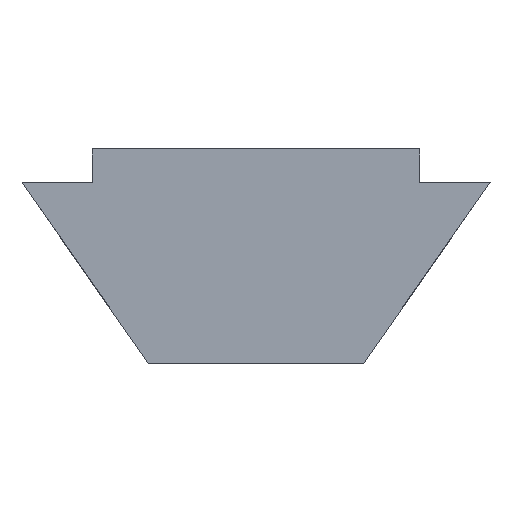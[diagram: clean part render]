
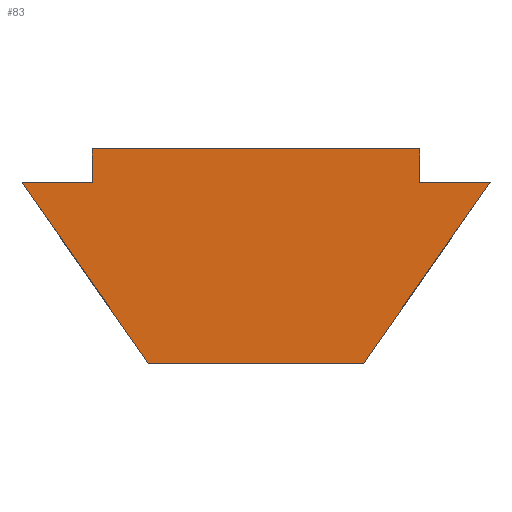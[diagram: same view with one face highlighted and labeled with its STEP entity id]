
A CAD part, left-side view. The second image highlights one B-rep face of the part: STEP entity #83.
In plain terms, the highlighted planar face has unit normal (-1, 0, 0) as drawn and (1, 0, 0) by its records, which use the part's own axes.
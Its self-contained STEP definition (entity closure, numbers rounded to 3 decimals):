
#83=ADVANCED_FACE('',(#122),#1466,.T.);
#122=FACE_OUTER_BOUND('',#163,.T.);
#163=EDGE_LOOP('',(#300,#301,#302,#303,#304,#305,#306,#307));
#300=ORIENTED_EDGE('',*,*,#999,.F.);
#301=ORIENTED_EDGE('',*,*,#1006,.F.);
#302=ORIENTED_EDGE('',*,*,#1011,.F.);
#303=ORIENTED_EDGE('',*,*,#1014,.F.);
#304=ORIENTED_EDGE('',*,*,#1017,.F.);
#305=ORIENTED_EDGE('',*,*,#1020,.F.);
#306=ORIENTED_EDGE('',*,*,#1025,.F.);
#307=ORIENTED_EDGE('',*,*,#1027,.F.);
#495=PCURVE('',#1457,#711);
#502=PCURVE('',#1458,#718);
#508=PCURVE('',#1459,#724);
#512=PCURVE('',#1460,#728);
#516=PCURVE('',#1461,#732);
#520=PCURVE('',#1462,#736);
#526=PCURVE('',#1463,#742);
#530=PCURVE('',#1464,#746);
#540=PCURVE('',#1466,#756);
#541=PCURVE('',#1466,#757);
#542=PCURVE('',#1466,#758);
#543=PCURVE('',#1466,#759);
#544=PCURVE('',#1466,#760);
#545=PCURVE('',#1466,#761);
#546=PCURVE('',#1466,#762);
#547=PCURVE('',#1466,#763);
#711=DEFINITIONAL_REPRESENTATION('',(#1174),#2965);
#718=DEFINITIONAL_REPRESENTATION('',(#1186),#2965);
#724=DEFINITIONAL_REPRESENTATION('',(#1197),#2965);
#728=DEFINITIONAL_REPRESENTATION('',(#1204),#2965);
#732=DEFINITIONAL_REPRESENTATION('',(#1211),#2965);
#736=DEFINITIONAL_REPRESENTATION('',(#1218),#2965);
#742=DEFINITIONAL_REPRESENTATION('',(#1227),#2965);
#746=DEFINITIONAL_REPRESENTATION('',(#1233),#2965);
#756=DEFINITIONAL_REPRESENTATION('',(#1244),#2965);
#757=DEFINITIONAL_REPRESENTATION('',(#1245),#2965);
#758=DEFINITIONAL_REPRESENTATION('',(#1246),#2965);
#759=DEFINITIONAL_REPRESENTATION('',(#1247),#2965);
#760=DEFINITIONAL_REPRESENTATION('',(#1248),#2965);
#761=DEFINITIONAL_REPRESENTATION('',(#1249),#2965);
#762=DEFINITIONAL_REPRESENTATION('',(#1250),#2965);
#763=DEFINITIONAL_REPRESENTATION('',(#1251),#2965);
#891=SURFACE_CURVE('',#1173,(#495,#540),.PCURVE_S1.);
#898=SURFACE_CURVE('',#1185,(#502,#541),.PCURVE_S1.);
#903=SURFACE_CURVE('',#1196,(#508,#542),.PCURVE_S1.);
#906=SURFACE_CURVE('',#1203,(#512,#543),.PCURVE_S1.);
#909=SURFACE_CURVE('',#1210,(#516,#544),.PCURVE_S1.);
#912=SURFACE_CURVE('',#1217,(#520,#545),.PCURVE_S1.);
#917=SURFACE_CURVE('',#1226,(#526,#546),.PCURVE_S1.);
#919=SURFACE_CURVE('',#1232,(#530,#547),.PCURVE_S1.);
#999=EDGE_CURVE('',#1395,#1396,#891,.T.);
#1006=EDGE_CURVE('',#1398,#1395,#898,.T.);
#1011=EDGE_CURVE('',#1400,#1398,#903,.T.);
#1014=EDGE_CURVE('',#1402,#1400,#906,.T.);
#1017=EDGE_CURVE('',#1404,#1402,#909,.T.);
#1020=EDGE_CURVE('',#1406,#1404,#912,.T.);
#1025=EDGE_CURVE('',#1408,#1406,#917,.T.);
#1027=EDGE_CURVE('',#1396,#1408,#919,.T.);
#1173=B_SPLINE_CURVE_WITH_KNOTS('',1,(#2161,#2162),.UNSPECIFIED.,.F.,.F.,
(2,2),(0.,3.906),.UNSPECIFIED.);
#1174=B_SPLINE_CURVE_WITH_KNOTS('',1,(#2163,#2164),.UNSPECIFIED.,.F.,.F.,
(2,2),(0.,3.906),.UNSPECIFIED.);
#1185=B_SPLINE_CURVE_WITH_KNOTS('',1,(#2201,#2202),.UNSPECIFIED.,.F.,.F.,
(2,2),(-3.819,0.),.UNSPECIFIED.);
#1186=B_SPLINE_CURVE_WITH_KNOTS('',1,(#2203,#2204),.UNSPECIFIED.,.F.,.F.,
(2,2),(-3.819,0.),.UNSPECIFIED.);
#1196=B_SPLINE_CURVE_WITH_KNOTS('',1,(#2253,#2254),.UNSPECIFIED.,.F.,.F.,
(2,2),(-7.725,-3.819),.UNSPECIFIED.);
#1197=B_SPLINE_CURVE_WITH_KNOTS('',1,(#2255,#2256),.UNSPECIFIED.,.F.,.F.,
(2,2),(-7.725,-3.819),.UNSPECIFIED.);
#1203=B_SPLINE_CURVE_WITH_KNOTS('',1,(#2267,#2268),.UNSPECIFIED.,.F.,.F.,
(2,2),(-8.975,-7.725),.UNSPECIFIED.);
#1204=B_SPLINE_CURVE_WITH_KNOTS('',1,(#2269,#2270),.UNSPECIFIED.,.F.,.F.,
(2,2),(-8.975,-7.725),.UNSPECIFIED.);
#1210=B_SPLINE_CURVE_WITH_KNOTS('',1,(#2281,#2282),.UNSPECIFIED.,.F.,.F.,
(2,2),(-9.575,-8.975),.UNSPECIFIED.);
#1211=B_SPLINE_CURVE_WITH_KNOTS('',1,(#2283,#2284),.UNSPECIFIED.,.F.,.F.,
(2,2),(-9.575,-8.975),.UNSPECIFIED.);
#1217=B_SPLINE_CURVE_WITH_KNOTS('',1,(#2295,#2296),.UNSPECIFIED.,.F.,.F.,
(2,2),(-15.375,-9.575),.UNSPECIFIED.);
#1218=B_SPLINE_CURVE_WITH_KNOTS('',1,(#2297,#2298),.UNSPECIFIED.,.F.,.F.,
(2,2),(-15.375,-9.575),.UNSPECIFIED.);
#1226=B_SPLINE_CURVE_WITH_KNOTS('',1,(#2369,#2370),.UNSPECIFIED.,.F.,.F.,
(2,2),(-15.975,-15.375),.UNSPECIFIED.);
#1227=B_SPLINE_CURVE_WITH_KNOTS('',1,(#2371,#2372),.UNSPECIFIED.,.F.,.F.,
(2,2),(-15.975,-15.375),.UNSPECIFIED.);
#1232=B_SPLINE_CURVE_WITH_KNOTS('',1,(#2381,#2382),.UNSPECIFIED.,.F.,.F.,
(2,2),(-17.225,-15.975),.UNSPECIFIED.);
#1233=B_SPLINE_CURVE_WITH_KNOTS('',1,(#2383,#2384),.UNSPECIFIED.,.F.,.F.,
(2,2),(-17.225,-15.975),.UNSPECIFIED.);
#1244=B_SPLINE_CURVE_WITH_KNOTS('',1,(#2405,#2406),.UNSPECIFIED.,.F.,.F.,
(2,2),(0.,3.906),.UNSPECIFIED.);
#1245=B_SPLINE_CURVE_WITH_KNOTS('',1,(#2407,#2408),.UNSPECIFIED.,.F.,.F.,
(2,2),(-3.819,0.),.UNSPECIFIED.);
#1246=B_SPLINE_CURVE_WITH_KNOTS('',1,(#2409,#2410),.UNSPECIFIED.,.F.,.F.,
(2,2),(-7.725,-3.819),.UNSPECIFIED.);
#1247=B_SPLINE_CURVE_WITH_KNOTS('',1,(#2411,#2412),.UNSPECIFIED.,.F.,.F.,
(2,2),(-8.975,-7.725),.UNSPECIFIED.);
#1248=B_SPLINE_CURVE_WITH_KNOTS('',1,(#2413,#2414),.UNSPECIFIED.,.F.,.F.,
(2,2),(-9.575,-8.975),.UNSPECIFIED.);
#1249=B_SPLINE_CURVE_WITH_KNOTS('',1,(#2415,#2416),.UNSPECIFIED.,.F.,.F.,
(2,2),(-15.375,-9.575),.UNSPECIFIED.);
#1250=B_SPLINE_CURVE_WITH_KNOTS('',1,(#2417,#2418),.UNSPECIFIED.,.F.,.F.,
(2,2),(-15.975,-15.375),.UNSPECIFIED.);
#1251=B_SPLINE_CURVE_WITH_KNOTS('',1,(#2419,#2420),.UNSPECIFIED.,.F.,.F.,
(2,2),(-17.225,-15.975),.UNSPECIFIED.);
#1395=VERTEX_POINT('',#2101);
#1396=VERTEX_POINT('',#2102);
#1398=VERTEX_POINT('',#2104);
#1400=VERTEX_POINT('',#2106);
#1402=VERTEX_POINT('',#2108);
#1404=VERTEX_POINT('',#2110);
#1406=VERTEX_POINT('',#2112);
#1408=VERTEX_POINT('',#2114);
#1457=PLANE('',#1532);
#1458=PLANE('',#1533);
#1459=PLANE('',#1534);
#1460=PLANE('',#1535);
#1461=PLANE('',#1536);
#1462=PLANE('',#1537);
#1463=PLANE('',#1538);
#1464=PLANE('',#1539);
#1466=PLANE('',#1541);
#1532=AXIS2_PLACEMENT_3D('',#2053,#1572,$);
#1533=AXIS2_PLACEMENT_3D('',#2054,#1573,$);
#1534=AXIS2_PLACEMENT_3D('',#2055,#1574,$);
#1535=AXIS2_PLACEMENT_3D('',#2056,#1575,$);
#1536=AXIS2_PLACEMENT_3D('',#2057,#1576,$);
#1537=AXIS2_PLACEMENT_3D('',#2058,#1577,$);
#1538=AXIS2_PLACEMENT_3D('',#2059,#1578,$);
#1539=AXIS2_PLACEMENT_3D('',#2060,#1579,$);
#1541=AXIS2_PLACEMENT_3D('',#2098,#1581,$);
#1572=DIRECTION('',(0.,0.819,0.574));
#1573=DIRECTION('',(0.,0.,1.));
#1574=DIRECTION('',(0.,-0.819,0.574));
#1575=DIRECTION('',(0.,0.,-1.));
#1576=DIRECTION('',(0.,-1.,0.));
#1577=DIRECTION('',(0.,0.,-1.));
#1578=DIRECTION('',(0.,1.,0.));
#1579=DIRECTION('',(0.,0.,-1.));
#1581=DIRECTION('',(1.,0.,0.));
#2053=CARTESIAN_POINT('',(-259.,-579.15,178.));
#2054=CARTESIAN_POINT('',(-259.,-576.909,174.8));
#2055=CARTESIAN_POINT('',(-259.,-573.091,174.8));
#2056=CARTESIAN_POINT('',(-259.,-570.85,178.));
#2057=CARTESIAN_POINT('',(-259.,-572.1,178.));
#2058=CARTESIAN_POINT('',(-259.,-572.1,178.6));
#2059=CARTESIAN_POINT('',(-259.,-577.9,178.6));
#2060=CARTESIAN_POINT('',(-259.,-577.9,178.));
#2098=CARTESIAN_POINT('',(-276.,-569.813,174.325));
#2101=CARTESIAN_POINT('',(-276.,-576.909,174.8));
#2102=CARTESIAN_POINT('',(-276.,-579.15,178.));
#2104=CARTESIAN_POINT('',(-276.,-573.091,174.8));
#2106=CARTESIAN_POINT('',(-276.,-570.85,178.));
#2108=CARTESIAN_POINT('',(-276.,-572.1,178.));
#2110=CARTESIAN_POINT('',(-276.,-572.1,178.6));
#2112=CARTESIAN_POINT('',(-276.,-577.9,178.6));
#2114=CARTESIAN_POINT('',(-276.,-577.9,178.));
#2161=CARTESIAN_POINT('',(-276.,-576.909,174.8));
#2162=CARTESIAN_POINT('',(-276.,-579.15,178.));
#2163=CARTESIAN_POINT('',(0.,17.));
#2164=CARTESIAN_POINT('',(-3.906,17.));
#2201=CARTESIAN_POINT('',(-276.,-573.091,174.8));
#2202=CARTESIAN_POINT('',(-276.,-576.909,174.8));
#2203=CARTESIAN_POINT('',(3.819,17.));
#2204=CARTESIAN_POINT('',(0.,17.));
#2253=CARTESIAN_POINT('',(-276.,-570.85,178.));
#2254=CARTESIAN_POINT('',(-276.,-573.091,174.8));
#2255=CARTESIAN_POINT('',(7.725,17.));
#2256=CARTESIAN_POINT('',(3.819,17.));
#2267=CARTESIAN_POINT('',(-276.,-572.1,178.));
#2268=CARTESIAN_POINT('',(-276.,-570.85,178.));
#2269=CARTESIAN_POINT('',(8.975,17.));
#2270=CARTESIAN_POINT('',(7.725,17.));
#2281=CARTESIAN_POINT('',(-276.,-572.1,178.6));
#2282=CARTESIAN_POINT('',(-276.,-572.1,178.));
#2283=CARTESIAN_POINT('',(9.575,17.));
#2284=CARTESIAN_POINT('',(8.975,17.));
#2295=CARTESIAN_POINT('',(-276.,-577.9,178.6));
#2296=CARTESIAN_POINT('',(-276.,-572.1,178.6));
#2297=CARTESIAN_POINT('',(15.375,17.));
#2298=CARTESIAN_POINT('',(9.575,17.));
#2369=CARTESIAN_POINT('',(-276.,-577.9,178.));
#2370=CARTESIAN_POINT('',(-276.,-577.9,178.6));
#2371=CARTESIAN_POINT('',(15.975,17.));
#2372=CARTESIAN_POINT('',(15.375,17.));
#2381=CARTESIAN_POINT('',(-276.,-579.15,178.));
#2382=CARTESIAN_POINT('',(-276.,-577.9,178.));
#2383=CARTESIAN_POINT('',(17.225,17.));
#2384=CARTESIAN_POINT('',(15.975,17.));
#2405=CARTESIAN_POINT('',(-3.2,-2.241));
#2406=CARTESIAN_POINT('',(0.,0.));
#2407=CARTESIAN_POINT('',(-3.2,-6.059));
#2408=CARTESIAN_POINT('',(-3.2,-2.241));
#2409=CARTESIAN_POINT('',(0.,-8.3));
#2410=CARTESIAN_POINT('',(-3.2,-6.059));
#2411=CARTESIAN_POINT('',(0.,-7.05));
#2412=CARTESIAN_POINT('',(0.,-8.3));
#2413=CARTESIAN_POINT('',(0.6,-7.05));
#2414=CARTESIAN_POINT('',(0.,-7.05));
#2415=CARTESIAN_POINT('',(0.6,-1.25));
#2416=CARTESIAN_POINT('',(0.6,-7.05));
#2417=CARTESIAN_POINT('',(0.,-1.25));
#2418=CARTESIAN_POINT('',(0.6,-1.25));
#2419=CARTESIAN_POINT('',(0.,0.));
#2420=CARTESIAN_POINT('',(0.,-1.25));
#2965=(
GEOMETRIC_REPRESENTATION_CONTEXT(2)
PARAMETRIC_REPRESENTATION_CONTEXT()
REPRESENTATION_CONTEXT('pspace','')
);
